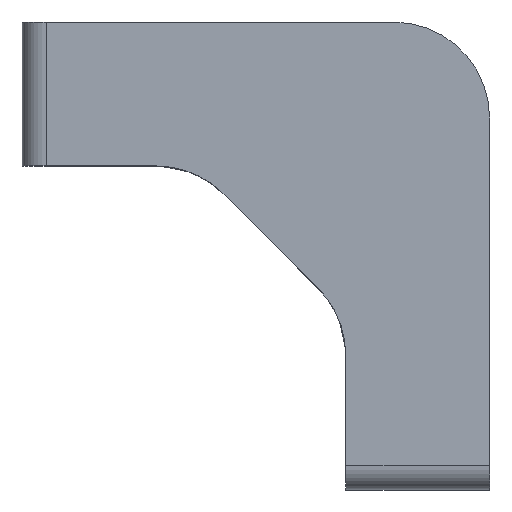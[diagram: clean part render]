
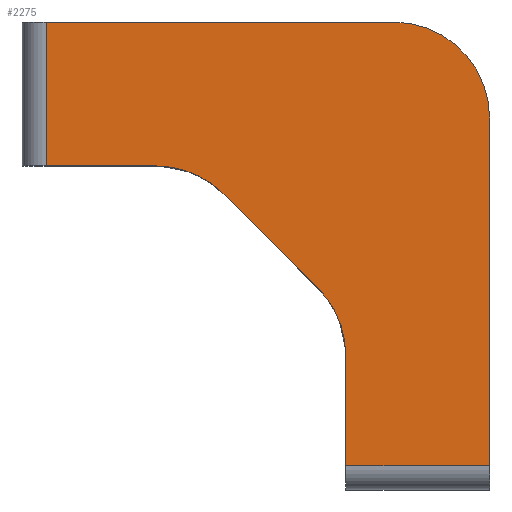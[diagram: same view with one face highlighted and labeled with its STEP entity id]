
A CAD part, top view. The second image highlights one B-rep face of the part: STEP entity #2275.
In plain terms, the highlighted planar face has unit normal (0, 0, 1).
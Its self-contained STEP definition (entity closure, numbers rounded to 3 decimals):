
#115 = DIRECTION ( 'NONE',  ( 1., 0., 0. ) ) ;
#175 = LINE ( 'NONE', #5135, #6075 ) ;
#216 = CIRCLE ( 'NONE', #1606, 4. ) ;
#243 = CARTESIAN_POINT ( 'NONE',  ( -9.5, 13.907, 10. ) ) ;
#269 = CARTESIAN_POINT ( 'NONE',  ( -5.593, 6., 10. ) ) ;
#299 = DIRECTION ( 'NONE',  ( 0., 0., -1. ) ) ;
#520 = EDGE_LOOP ( 'NONE', ( #5607, #7713, #5214, #4143, #7122, #3458, #7576, #1686, #8411, #668 ) ) ;
#585 = EDGE_CURVE ( 'NONE', #6924, #9405, #175, .T. ) ;
#668 = ORIENTED_EDGE ( 'NONE', *, *, #3465, .T. ) ;
#705 = CIRCLE ( 'NONE', #2560, 4. ) ;
#1037 = VERTEX_POINT ( 'NONE', #1567 ) ;
#1565 = CARTESIAN_POINT ( 'NONE',  ( 0., 0., 10. ) ) ;
#1567 = CARTESIAN_POINT ( 'NONE',  ( -1., 0., 10. ) ) ;
#1606 = AXIS2_PLACEMENT_3D ( 'NONE', #5551, #2943, #4476 ) ;
#1623 = DIRECTION ( 'NONE',  ( -1., 0., 0. ) ) ;
#1686 = ORIENTED_EDGE ( 'NONE', *, *, #2816, .T. ) ;
#2155 = LINE ( 'NONE', #9463, #9001 ) ;
#2262 = VERTEX_POINT ( 'NONE', #2486 ) ;
#2275 = ADVANCED_FACE ( 'NONE', ( #6956 ), #9011, .F. ) ;
#2486 = CARTESIAN_POINT ( 'NONE',  ( -13.5, 13.907, 10. ) ) ;
#2511 = DIRECTION ( 'NONE',  ( -1., 0., 0. ) ) ;
#2522 = EDGE_CURVE ( 'NONE', #6924, #2262, #4671, .T. ) ;
#2560 = AXIS2_PLACEMENT_3D ( 'NONE', #8789, #5146, #6640 ) ;
#2602 = CARTESIAN_POINT ( 'NONE',  ( -13.5, 6., 10. ) ) ;
#2740 = EDGE_CURVE ( 'NONE', #8778, #1037, #2915, .T. ) ;
#2816 = EDGE_CURVE ( 'NONE', #9233, #7733, #7530, .T. ) ;
#2915 = LINE ( 'NONE', #1565, #5286 ) ;
#2943 = DIRECTION ( 'NONE',  ( 0., 0., 1. ) ) ;
#2964 = CARTESIAN_POINT ( 'NONE',  ( -15.5, 0., 10. ) ) ;
#3154 = AXIS2_PLACEMENT_3D ( 'NONE', #7676, #5369, #6858 ) ;
#3228 = LINE ( 'NONE', #2602, #3946 ) ;
#3295 = VECTOR ( 'NONE', #4744, 1000. ) ;
#3458 = ORIENTED_EDGE ( 'NONE', *, *, #2522, .T. ) ;
#3465 = EDGE_CURVE ( 'NONE', #6182, #8778, #216, .T. ) ;
#3479 = CARTESIAN_POINT ( 'NONE',  ( -1., 6., 10. ) ) ;
#3946 = VECTOR ( 'NONE', #7501, 1000. ) ;
#4143 = ORIENTED_EDGE ( 'NONE', *, *, #6513, .T. ) ;
#4476 = DIRECTION ( 'NONE',  ( -1., 0., 0. ) ) ;
#4491 = CARTESIAN_POINT ( 'NONE',  ( -13.5, 18.5, 10. ) ) ;
#4671 = CIRCLE ( 'NONE', #6206, 4. ) ;
#4675 = CARTESIAN_POINT ( 'NONE',  ( -8.422, 7.172, 10. ) ) ;
#4687 = VECTOR ( 'NONE', #5944, 1000. ) ;
#4744 = DIRECTION ( 'NONE',  ( -1., 0., 0. ) ) ;
#4989 = VERTEX_POINT ( 'NONE', #269 ) ;
#5019 = VECTOR ( 'NONE', #7741, 1000. ) ;
#5135 = CARTESIAN_POINT ( 'NONE',  ( -0.625, -0.625, 10. ) ) ;
#5146 = DIRECTION ( 'NONE',  ( 0., 0., -1. ) ) ;
#5212 = EDGE_CURVE ( 'NONE', #7733, #6182, #7475, .T. ) ;
#5214 = ORIENTED_EDGE ( 'NONE', *, *, #6804, .T. ) ;
#5286 = VECTOR ( 'NONE', #115, 1000. ) ;
#5369 = DIRECTION ( 'NONE',  ( 0., 0., -1. ) ) ;
#5386 = LINE ( 'NONE', #9124, #5019 ) ;
#5512 = CARTESIAN_POINT ( 'NONE',  ( -15.5, 18.5, 10. ) ) ;
#5551 = CARTESIAN_POINT ( 'NONE',  ( -15.5, 4., 10. ) ) ;
#5607 = ORIENTED_EDGE ( 'NONE', *, *, #2740, .T. ) ;
#5837 = VERTEX_POINT ( 'NONE', #3479 ) ;
#5944 = DIRECTION ( 'NONE',  ( 0., -1., 0. ) ) ;
#5993 = CARTESIAN_POINT ( 'NONE',  ( -19.5, 4., 10. ) ) ;
#6052 = CARTESIAN_POINT ( 'NONE',  ( -12.328, 11.078, 10. ) ) ;
#6075 = VECTOR ( 'NONE', #6674, 1000. ) ;
#6182 = VERTEX_POINT ( 'NONE', #7828 ) ;
#6206 = AXIS2_PLACEMENT_3D ( 'NONE', #243, #299, #2511 ) ;
#6513 = EDGE_CURVE ( 'NONE', #4989, #9405, #705, .T. ) ;
#6581 = EDGE_CURVE ( 'NONE', #1037, #5837, #5386, .T. ) ;
#6640 = DIRECTION ( 'NONE',  ( -1., 0., 0. ) ) ;
#6674 = DIRECTION ( 'NONE',  ( 0.707, -0.707, 0. ) ) ;
#6804 = EDGE_CURVE ( 'NONE', #5837, #4989, #2155, .T. ) ;
#6858 = DIRECTION ( 'NONE',  ( -1., 0., 0. ) ) ;
#6924 = VERTEX_POINT ( 'NONE', #6052 ) ;
#6956 = FACE_OUTER_BOUND ( 'NONE', #520, .T. ) ;
#7122 = ORIENTED_EDGE ( 'NONE', *, *, #585, .F. ) ;
#7249 = EDGE_CURVE ( 'NONE', #2262, #9233, #3228, .T. ) ;
#7475 = LINE ( 'NONE', #5993, #4687 ) ;
#7501 = DIRECTION ( 'NONE',  ( 0., 1., 0. ) ) ;
#7530 = LINE ( 'NONE', #5512, #3295 ) ;
#7576 = ORIENTED_EDGE ( 'NONE', *, *, #7249, .T. ) ;
#7627 = CARTESIAN_POINT ( 'NONE',  ( -19.5, 18.5, 10. ) ) ;
#7676 = CARTESIAN_POINT ( 'NONE',  ( -15.5, 4., 10. ) ) ;
#7713 = ORIENTED_EDGE ( 'NONE', *, *, #6581, .T. ) ;
#7733 = VERTEX_POINT ( 'NONE', #7627 ) ;
#7741 = DIRECTION ( 'NONE',  ( 0., 1., 0. ) ) ;
#7828 = CARTESIAN_POINT ( 'NONE',  ( -19.5, 4., 10. ) ) ;
#8411 = ORIENTED_EDGE ( 'NONE', *, *, #5212, .T. ) ;
#8778 = VERTEX_POINT ( 'NONE', #2964 ) ;
#8789 = CARTESIAN_POINT ( 'NONE',  ( -5.593, 10., 10. ) ) ;
#9001 = VECTOR ( 'NONE', #1623, 1000. ) ;
#9011 = PLANE ( 'NONE',  #3154 ) ;
#9124 = CARTESIAN_POINT ( 'NONE',  ( -1., 4., 10. ) ) ;
#9233 = VERTEX_POINT ( 'NONE', #4491 ) ;
#9405 = VERTEX_POINT ( 'NONE', #4675 ) ;
#9463 = CARTESIAN_POINT ( 'NONE',  ( 0., 6., 10. ) ) ;
